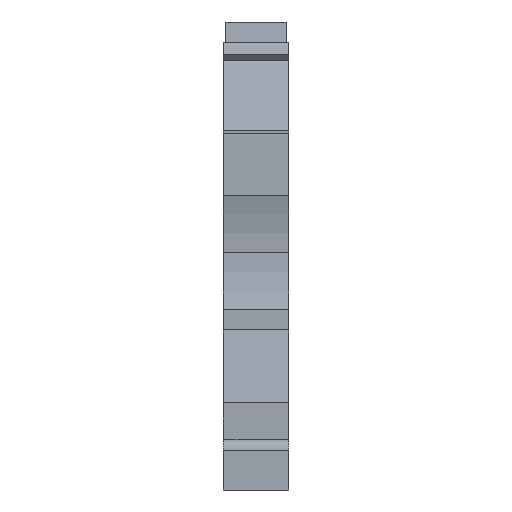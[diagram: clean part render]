
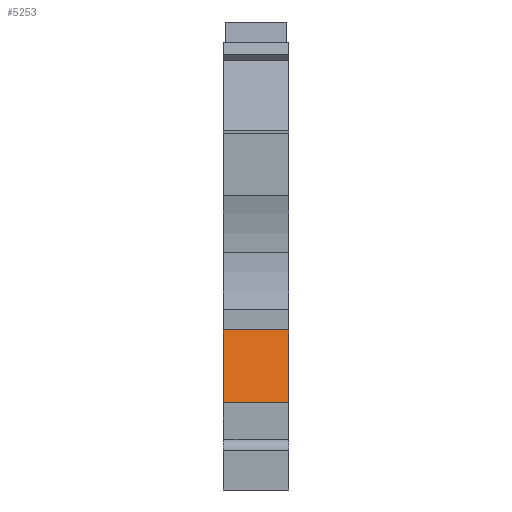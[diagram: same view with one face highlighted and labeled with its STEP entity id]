
A CAD part, front view. The second image highlights one B-rep face of the part: STEP entity #5253.
In plain terms, the highlighted planar face has unit normal (0, -0.985, 0.174).
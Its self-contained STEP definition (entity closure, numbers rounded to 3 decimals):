
#401=CARTESIAN_POINT('',(-0.,3.6,6.862));
#402=VERTEX_POINT('',#401);
#409=CARTESIAN_POINT('',(-0.,4.612,12.6));
#410=VERTEX_POINT('',#409);
#411=CARTESIAN_POINT('',(-0.,3.6,6.862));
#412=DIRECTION('',(-0.,0.174,0.985));
#413=VECTOR('',#412,5.827);
#414=LINE('',#411,#413);
#415=EDGE_CURVE('',#402,#410,#414,.T.);
#678=CARTESIAN_POINT('',(5.15,3.6,6.862));
#679=VERTEX_POINT('',#678);
#680=CARTESIAN_POINT('',(-0.,3.6,6.862));
#681=DIRECTION('',(1.,0.,0.));
#682=VECTOR('',#681,5.15);
#683=LINE('',#680,#682);
#684=EDGE_CURVE('',#402,#679,#683,.T.);
#2106=CARTESIAN_POINT('',(5.15,4.612,12.6));
#2107=VERTEX_POINT('',#2106);
#2114=CARTESIAN_POINT('',(5.15,4.612,12.6));
#2115=DIRECTION('',(-0.,-0.174,-0.985));
#2116=VECTOR('',#2115,5.827);
#2117=LINE('',#2114,#2116);
#2118=EDGE_CURVE('',#2107,#679,#2117,.T.);
#5213=CARTESIAN_POINT('',(5.15,4.612,12.6));
#5214=DIRECTION('',(-1.,-0.,-0.));
#5215=VECTOR('',#5214,5.15);
#5216=LINE('',#5213,#5215);
#5217=EDGE_CURVE('',#2107,#410,#5216,.T.);
#5242=CARTESIAN_POINT('',(5.15,3.801,8.));
#5243=DIRECTION('',(-0.,-0.985,0.174));
#5244=DIRECTION('',(-0.,0.174,0.985));
#5245=AXIS2_PLACEMENT_3D('',#5242,#5243,#5244);
#5246=PLANE('',#5245);
#5247=ORIENTED_EDGE('',*,*,#415,.F.);
#5248=ORIENTED_EDGE('',*,*,#684,.T.);
#5249=ORIENTED_EDGE('',*,*,#2118,.F.);
#5250=ORIENTED_EDGE('',*,*,#5217,.T.);
#5251=EDGE_LOOP('',(#5247,#5248,#5249,#5250));
#5252=FACE_BOUND('',#5251,.T.);
#5253=ADVANCED_FACE('',(#5252),#5246,.T.);
